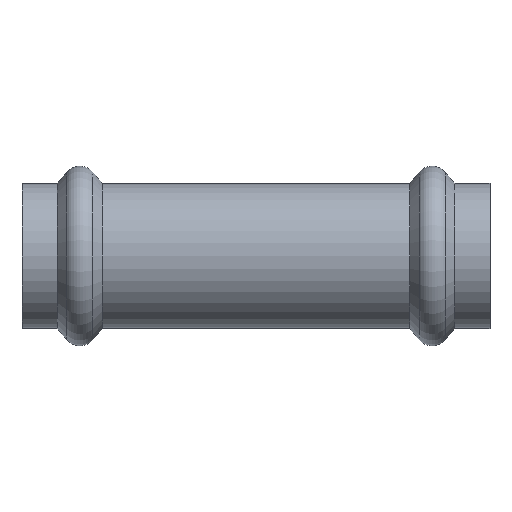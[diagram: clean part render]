
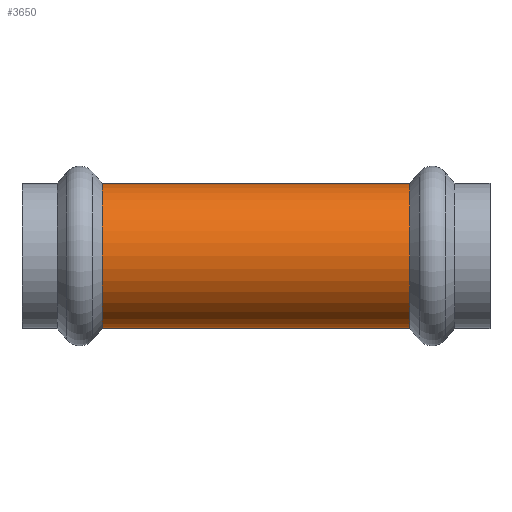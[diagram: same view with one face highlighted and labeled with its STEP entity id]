
A CAD part, front view. The second image highlights one B-rep face of the part: STEP entity #3650.
In plain terms, the highlighted cylindrical face has radius 12.55 mm (diameter 25.1 mm), a partial arc.
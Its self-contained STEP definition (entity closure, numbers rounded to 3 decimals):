
#76 = ORIENTED_EDGE ( 'NONE', *, *, #1482, .T. ) ;
#194 = AXIS2_PLACEMENT_3D ( 'NONE', #1707, #1687, #1669 ) ;
#240 = CARTESIAN_POINT ( 'NONE',  ( -58.611, 0., 0. ) ) ;
#255 = DIRECTION ( 'NONE',  ( -1., 0., 0. ) ) ;
#348 = DIRECTION ( 'NONE',  ( 0., 0., 1. ) ) ;
#519 = VERTEX_POINT ( 'NONE', #3440 ) ;
#597 = AXIS2_PLACEMENT_3D ( 'NONE', #4047, #4040, #4011 ) ;
#678 = CIRCLE ( 'NONE', #194, 12.55 ) ;
#1000 = EDGE_CURVE ( 'NONE', #1476, #4446, #678, .T. ) ;
#1202 = DIRECTION ( 'NONE',  ( -1., 0., 0. ) ) ;
#1225 = ORIENTED_EDGE ( 'NONE', *, *, #1371, .F. ) ;
#1233 = CYLINDRICAL_SURFACE ( 'NONE', #4172, 12.55 ) ;
#1283 = CARTESIAN_POINT ( 'NONE',  ( -58.611, 0., 12.55 ) ) ;
#1340 = CARTESIAN_POINT ( 'NONE',  ( -26.595, 0., 12.55 ) ) ;
#1353 = DIRECTION ( 'NONE',  ( -1., 0., 0. ) ) ;
#1371 = EDGE_CURVE ( 'NONE', #519, #4446, #4438, .T. ) ;
#1476 = VERTEX_POINT ( 'NONE', #1340 ) ;
#1482 = EDGE_CURVE ( 'NONE', #3967, #1476, #4188, .T. ) ;
#1669 = DIRECTION ( 'NONE',  ( 0., 0., 1. ) ) ;
#1687 = DIRECTION ( 'NONE',  ( 1., 0., 0. ) ) ;
#1707 = CARTESIAN_POINT ( 'NONE',  ( -26.595, 0., 0. ) ) ;
#1736 = FACE_OUTER_BOUND ( 'NONE', #4095, .T. ) ;
#1816 = CARTESIAN_POINT ( 'NONE',  ( -58.611, 0., -12.55 ) ) ;
#1948 = CARTESIAN_POINT ( 'NONE',  ( 26.595, 0., 12.55 ) ) ;
#2497 = ORIENTED_EDGE ( 'NONE', *, *, #2810, .T. ) ;
#2810 = EDGE_CURVE ( 'NONE', #519, #3967, #4478, .T. ) ;
#3440 = CARTESIAN_POINT ( 'NONE',  ( 26.595, 0., -12.55 ) ) ;
#3650 = ADVANCED_FACE ( 'NONE', ( #1736 ), #1233, .T. ) ;
#3881 = CARTESIAN_POINT ( 'NONE',  ( -26.595, 0., -12.55 ) ) ;
#3967 = VERTEX_POINT ( 'NONE', #1948 ) ;
#4011 = DIRECTION ( 'NONE',  ( 0., 0., -1. ) ) ;
#4040 = DIRECTION ( 'NONE',  ( -1., 0., 0. ) ) ;
#4047 = CARTESIAN_POINT ( 'NONE',  ( 26.595, 0., 0. ) ) ;
#4095 = EDGE_LOOP ( 'NONE', ( #1225, #2497, #76, #4184 ) ) ;
#4172 = AXIS2_PLACEMENT_3D ( 'NONE', #240, #255, #348 ) ;
#4182 = VECTOR ( 'NONE', #1202, 1000. ) ;
#4184 = ORIENTED_EDGE ( 'NONE', *, *, #1000, .T. ) ;
#4188 = LINE ( 'NONE', #1283, #4182 ) ;
#4319 = VECTOR ( 'NONE', #1353, 1000. ) ;
#4438 = LINE ( 'NONE', #1816, #4319 ) ;
#4446 = VERTEX_POINT ( 'NONE', #3881 ) ;
#4478 = CIRCLE ( 'NONE', #597, 12.55 ) ;
